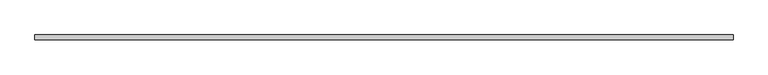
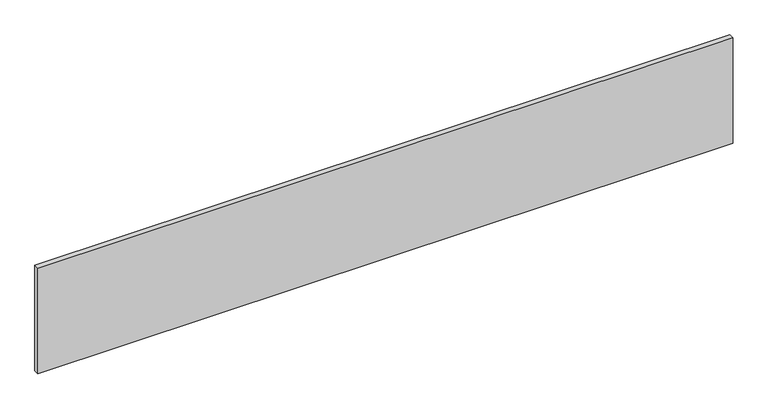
"""IFC4 building model written with IfcOpenShell, lengths in millimetres: proxy geometry, GM_Панель фасадная : Декоративные перемычки."""

from ifc_helpers import new_model, si_unit, origin, origin_with_axes, place, context, project, spatial, polyline, outline, extrude, source, transform, mapped, element, save


def generic_models_1a94a192(model_context):
    return source(origin(), model_context, "Body", "SweptSolid", [
        extrude(outline(polyline([(-2675.0, 125.0), (125.0, 125.0), (125.0, 105.0), (-2675.0, 105.0), (-2675.0, 125.0)])), origin_with_axes(), (0.0, 0.0, 1.0), 450.0),
    ])


if __name__ == "__main__":
    model = new_model("IFC4")
    model_context = context("Model", 3, world=origin())
    ifc_project = project(units=[si_unit("LENGTHUNIT", "METRE", prefix="MILLI")], contexts=[model_context])
    site = spatial("IfcSite", under=ifc_project)
    building = spatial("IfcBuilding", under=site)
    placement = place(None, origin())
    generic_models_shape = generic_models_1a94a192(model_context)
    element("IfcBuildingElementProxy", 1, Name="GM_Панель фасадная : Декоративные перемычки", ObjectType="GM_Панель фасадная : Декоративные перемычки", at=placement, inside=building, context=model_context, shape_type="MappedRepresentation", body=[
        mapped(generic_models_shape, transform((0.0, 0.0, 0.0), x_axis=(1.0, 0.0, 0.0), y_axis=(0.0, 1.0, 0.0), z_axis=(0.0, 0.0, 1.0))),
    ])
    save(model, "model.ifc")
